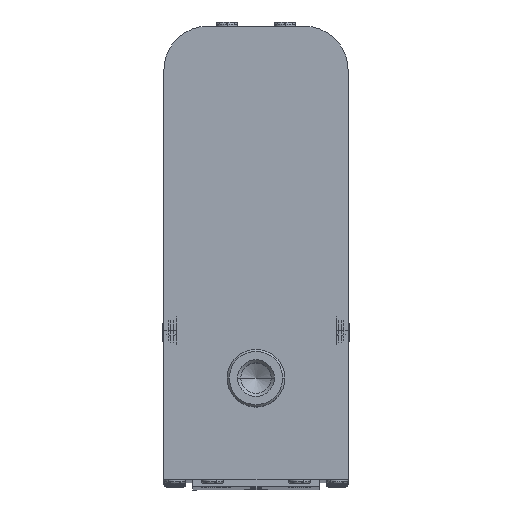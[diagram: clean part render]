
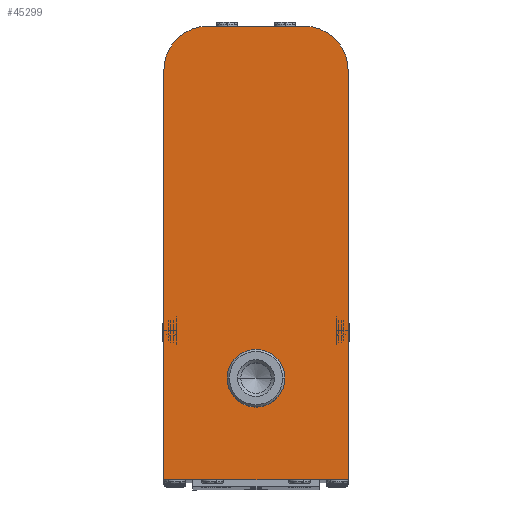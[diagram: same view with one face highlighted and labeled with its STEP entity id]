
A CAD part, top view. The second image highlights one B-rep face of the part: STEP entity #45299.
In plain terms, the highlighted planar face has unit normal (0, 0, 1).
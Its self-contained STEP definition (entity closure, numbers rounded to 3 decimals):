
#182 = FACE_BOUND ( 'NONE', #17176, .T. ) ;
#653 = DIRECTION ( 'NONE',  ( 0., 0., 1. ) ) ;
#5352 = CARTESIAN_POINT ( 'NONE',  ( 12.7, 38.1, 0. ) ) ;
#5959 = ORIENTED_EDGE ( 'NONE', *, *, #18374, .T. ) ;
#8720 = LINE ( 'NONE', #37503, #47514 ) ;
#9766 = VERTEX_POINT ( 'NONE', #69097 ) ;
#10620 = LINE ( 'NONE', #69059, #40209 ) ;
#13886 = DIRECTION ( 'NONE',  ( 1., 0., 0. ) ) ;
#14082 = CARTESIAN_POINT ( 'NONE',  ( 0., 0., 0. ) ) ;
#15731 = CARTESIAN_POINT ( 'NONE',  ( -8.7, -24.4, 0. ) ) ;
#15758 = DIRECTION ( 'NONE',  ( 1., 0., 0. ) ) ;
#15855 = VERTEX_POINT ( 'NONE', #85221 ) ;
#17176 = EDGE_LOOP ( 'NONE', ( #57685, #93018 ) ) ;
#18147 = EDGE_CURVE ( 'NONE', #72319, #56647, #89053, .T. ) ;
#18374 = EDGE_CURVE ( 'NONE', #80356, #9766, #37040, .T. ) ;
#20227 = AXIS2_PLACEMENT_3D ( 'NONE', #66272, #653, #37553 ) ;
#22235 = FACE_OUTER_BOUND ( 'NONE', #50762, .T. ) ;
#22439 = LINE ( 'NONE', #15731, #65480 ) ;
#22915 = DIRECTION ( 'NONE',  ( -1., 0., 0. ) ) ;
#24072 = CIRCLE ( 'NONE', #30169, 3.969 ) ;
#28612 = EDGE_CURVE ( 'NONE', #68601, #28726, #22439, .T. ) ;
#28726 = VERTEX_POINT ( 'NONE', #91320 ) ;
#29405 = PLANE ( 'NONE',  #93908 ) ;
#30169 = AXIS2_PLACEMENT_3D ( 'NONE', #72792, #66544, #13886 ) ;
#30890 = VERTEX_POINT ( 'NONE', #81916 ) ;
#31468 = CIRCLE ( 'NONE', #84963, 3.969 ) ;
#31817 = ORIENTED_EDGE ( 'NONE', *, *, #57274, .F. ) ;
#37040 = CIRCLE ( 'NONE', #92099, 6. ) ;
#37503 = CARTESIAN_POINT ( 'NONE',  ( 12.7, 38.1, 0. ) ) ;
#37553 = DIRECTION ( 'NONE',  ( 1., 0., 0. ) ) ;
#38739 = CARTESIAN_POINT ( 'NONE',  ( 0., -10.446, 0. ) ) ;
#40209 = VECTOR ( 'NONE', #62329, 1000. ) ;
#41099 = EDGE_CURVE ( 'NONE', #56647, #80356, #77193, .T. ) ;
#43335 = DIRECTION ( 'NONE',  ( 1., 0., 0. ) ) ;
#43478 = VECTOR ( 'NONE', #77653, 1000. ) ;
#45299 = ADVANCED_FACE ( 'NONE', ( #22235, #182 ), #29405, .T. ) ;
#45782 = CARTESIAN_POINT ( 'NONE',  ( 12.7, 32.1, 0. ) ) ;
#47514 = VECTOR ( 'NONE', #80566, 1000. ) ;
#49041 = EDGE_CURVE ( 'NONE', #30890, #15855, #31468, .T. ) ;
#50762 = EDGE_LOOP ( 'NONE', ( #51146, #68629, #31817, #85246, #78216, #5959 ) ) ;
#51146 = ORIENTED_EDGE ( 'NONE', *, *, #72590, .T. ) ;
#53104 = CARTESIAN_POINT ( 'NONE',  ( -6.7, 32.1, 0. ) ) ;
#56647 = VERTEX_POINT ( 'NONE', #64434 ) ;
#57274 = EDGE_CURVE ( 'NONE', #72319, #68601, #8720, .T. ) ;
#57685 = ORIENTED_EDGE ( 'NONE', *, *, #84561, .F. ) ;
#59353 = DIRECTION ( 'NONE',  ( 0., 0., 1. ) ) ;
#62329 = DIRECTION ( 'NONE',  ( 0., -1., 0. ) ) ;
#64434 = CARTESIAN_POINT ( 'NONE',  ( 6.7, 38.1, 0. ) ) ;
#64852 = DIRECTION ( 'NONE',  ( 0., 0., 1. ) ) ;
#65480 = VECTOR ( 'NONE', #22915, 1000. ) ;
#66272 = CARTESIAN_POINT ( 'NONE',  ( 6.7, 32.1, 0. ) ) ;
#66544 = DIRECTION ( 'NONE',  ( 0., 0., 1. ) ) ;
#68601 = VERTEX_POINT ( 'NONE', #83598 ) ;
#68629 = ORIENTED_EDGE ( 'NONE', *, *, #28612, .F. ) ;
#68773 = CARTESIAN_POINT ( 'NONE',  ( -6.7, 38.1, 0. ) ) ;
#69059 = CARTESIAN_POINT ( 'NONE',  ( -12.7, 38.1, 0. ) ) ;
#69097 = CARTESIAN_POINT ( 'NONE',  ( -12.7, 32.1, 0. ) ) ;
#72319 = VERTEX_POINT ( 'NONE', #45782 ) ;
#72590 = EDGE_CURVE ( 'NONE', #9766, #28726, #10620, .T. ) ;
#72792 = CARTESIAN_POINT ( 'NONE',  ( 0., -10.446, 0. ) ) ;
#74638 = DIRECTION ( 'NONE',  ( 1., 0., 0. ) ) ;
#77193 = LINE ( 'NONE', #5352, #43478 ) ;
#77653 = DIRECTION ( 'NONE',  ( -1., 0., 0. ) ) ;
#78216 = ORIENTED_EDGE ( 'NONE', *, *, #41099, .T. ) ;
#80356 = VERTEX_POINT ( 'NONE', #68773 ) ;
#80566 = DIRECTION ( 'NONE',  ( 0., -1., 0. ) ) ;
#81916 = CARTESIAN_POINT ( 'NONE',  ( 3.969, -10.446, 0. ) ) ;
#83598 = CARTESIAN_POINT ( 'NONE',  ( 12.7, -24.4, 0. ) ) ;
#84561 = EDGE_CURVE ( 'NONE', #15855, #30890, #24072, .T. ) ;
#84963 = AXIS2_PLACEMENT_3D ( 'NONE', #38739, #59353, #74638 ) ;
#85221 = CARTESIAN_POINT ( 'NONE',  ( -3.969, -10.446, 0. ) ) ;
#85246 = ORIENTED_EDGE ( 'NONE', *, *, #18147, .T. ) ;
#89014 = DIRECTION ( 'NONE',  ( 0., 0., 1. ) ) ;
#89053 = CIRCLE ( 'NONE', #20227, 6. ) ;
#91320 = CARTESIAN_POINT ( 'NONE',  ( -12.7, -24.4, 0. ) ) ;
#92099 = AXIS2_PLACEMENT_3D ( 'NONE', #53104, #89014, #15758 ) ;
#93018 = ORIENTED_EDGE ( 'NONE', *, *, #49041, .F. ) ;
#93908 = AXIS2_PLACEMENT_3D ( 'NONE', #14082, #64852, #43335 ) ;
